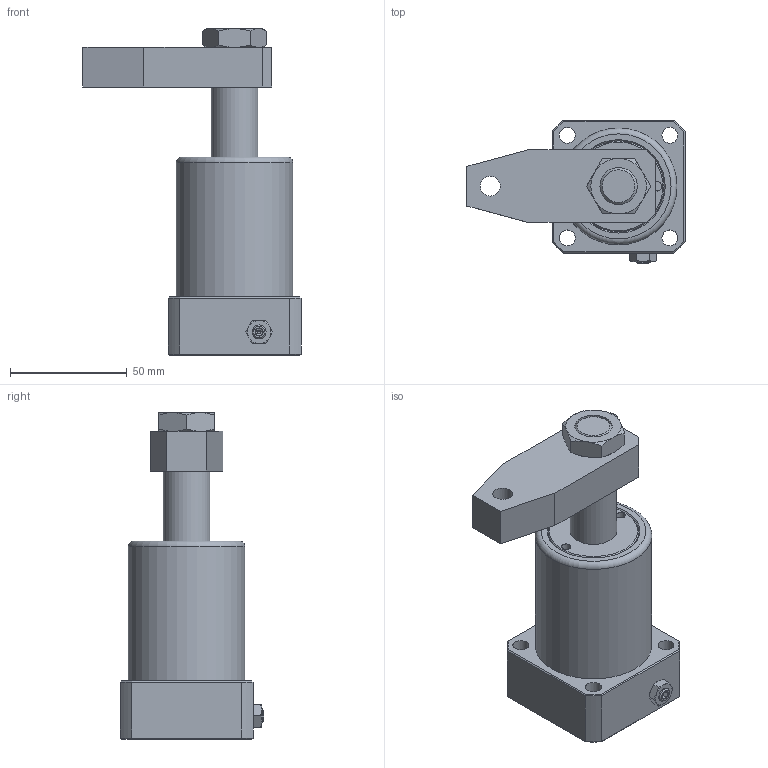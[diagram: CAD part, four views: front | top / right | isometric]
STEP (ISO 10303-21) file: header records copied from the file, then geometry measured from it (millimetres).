
FILE_DESCRIPTION(/* description */ ('Unknown'),/* implementation_level */ '2;1');
FILE_NAME(/* name */ 'HSC-MF32S-A',/* time_stamp */ '2019-05-27T16:07:58+08:00',/* author */ ('Unknown'),/* organization */ ('Unknown'),/* preprocessor_version */ 'ST-DEVELOPER v16.7',/* originating_system */ 'DEX',/* authorisation */ $);
FILE_SCHEMA (('AUTOMOTIVE_DESIGN {1 0 10303 214 3 1 1}'));
Length unit declared in the file: millimetre
Products named in the file (4): HSC-MF32S-A; HSC-MF32S-CYLINDER; HSC-3202-S-AXLE CENTRE; HSC-32S-A
Assembly tree (3 placements, depth 2):
  HSC-MF32S-A
    HSC-MF32S-CYLINDER
    HSC-3202-S-AXLE CENTRE
    HSC-32S-A
Bounding box: 93.5 x 61.6 x 140 mm (x, y, z)
Volume: 224013.9 mm3; surface area: 48001.1 mm2
Topology: 3 solids, 3 shells, 130 faces, 281 edges, 174 vertices
Faces by surface type: plane 56, cone 34, cylinder 24, bspline 12, torus 4
Full cylindrical faces by diameter (mm): 4 x2, 5 x2, 6 x1, 6.8 x4, 8.5 x1, 10 x2, 16 x2, 17 x1, 20 x2, 32 x2, 50 x1
Entity records: 3937 total; most frequent: CARTESIAN_POINT 964, ORIENTED_EDGE 492, DIRECTION 490, EDGE_CURVE 246, AXIS2_PLACEMENT_3D 211, EDGE_LOOP 190, FACE_BOUND 190, VERTEX_POINT 170
